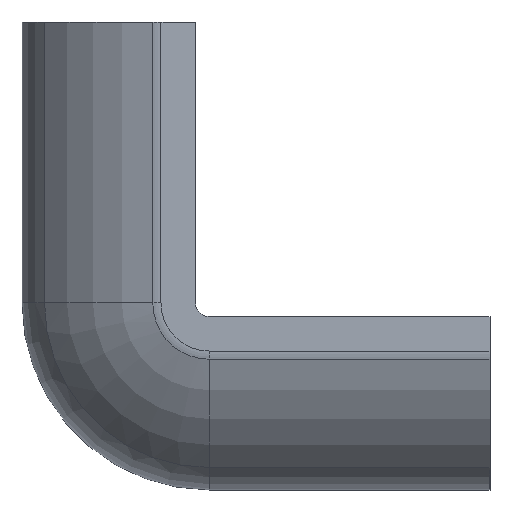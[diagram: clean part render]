
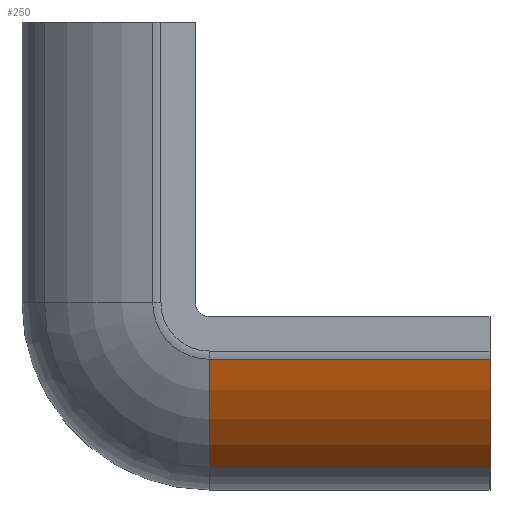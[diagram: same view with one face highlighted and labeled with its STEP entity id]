
A CAD part, left-side view. The second image highlights one B-rep face of the part: STEP entity #250.
In plain terms, the highlighted cylindrical face has radius 20 mm (diameter 40 mm), a partial arc.
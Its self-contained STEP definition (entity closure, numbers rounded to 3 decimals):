
#10 = CARTESIAN_POINT ( 'NONE',  ( -14.894, -28.32, -32.427 ) ) ;
#50 = EDGE_CURVE ( 'NONE', #1229, #1000, #739, .T. ) ;
#89 = CARTESIAN_POINT ( 'NONE',  ( -8.015, -28.32, -42.84 ) ) ;
#91 = DIRECTION ( 'NONE',  ( 0., 1., 0. ) ) ;
#119 = DIRECTION ( 'NONE',  ( 0., 1., 0. ) ) ;
#124 = VERTEX_POINT ( 'NONE', #883 ) ;
#188 = VECTOR ( 'NONE', #877, 1000. ) ;
#207 = CARTESIAN_POINT ( 'NONE',  ( -14.894, -1.32, -32.427 ) ) ;
#250 = ADVANCED_FACE ( 'NONE', ( #1447 ), #1463, .T. ) ;
#268 = EDGE_LOOP ( 'NONE', ( #287, #1659, #1123, #473 ) ) ;
#277 = DIRECTION ( 'NONE',  ( 0., 0., -1. ) ) ;
#287 = ORIENTED_EDGE ( 'NONE', *, *, #50, .T. ) ;
#289 = VECTOR ( 'NONE', #1025, 1000. ) ;
#374 = DIRECTION ( 'NONE',  ( 1., 0., 0. ) ) ;
#450 = VERTEX_POINT ( 'NONE', #502 ) ;
#455 = EDGE_CURVE ( 'NONE', #450, #1229, #1014, .T. ) ;
#473 = ORIENTED_EDGE ( 'NONE', *, *, #455, .T. ) ;
#502 = CARTESIAN_POINT ( 'NONE',  ( -8.015, -1.32, -42.84 ) ) ;
#513 = DIRECTION ( 'NONE',  ( 1., 0., 0. ) ) ;
#739 = CIRCLE ( 'NONE', #1392, 20. ) ;
#775 = CIRCLE ( 'NONE', #1401, 20. ) ;
#795 = CARTESIAN_POINT ( 'NONE',  ( 4.4, -1.32, -27.16 ) ) ;
#877 = DIRECTION ( 'NONE',  ( 0., 1., 0. ) ) ;
#883 = CARTESIAN_POINT ( 'NONE',  ( -14.894, -1.32, -32.427 ) ) ;
#954 = AXIS2_PLACEMENT_3D ( 'NONE', #1571, #1469, #277 ) ;
#1000 = VERTEX_POINT ( 'NONE', #10 ) ;
#1014 = LINE ( 'NONE', #1142, #289 ) ;
#1025 = DIRECTION ( 'NONE',  ( 0., -1., 0. ) ) ;
#1123 = ORIENTED_EDGE ( 'NONE', *, *, #1499, .F. ) ;
#1142 = CARTESIAN_POINT ( 'NONE',  ( -8.015, -1.32, -42.84 ) ) ;
#1229 = VERTEX_POINT ( 'NONE', #89 ) ;
#1392 = AXIS2_PLACEMENT_3D ( 'NONE', #1527, #91, #513 ) ;
#1401 = AXIS2_PLACEMENT_3D ( 'NONE', #795, #119, #374 ) ;
#1447 = FACE_OUTER_BOUND ( 'NONE', #268, .T. ) ;
#1463 = CYLINDRICAL_SURFACE ( 'NONE', #954, 20. ) ;
#1469 = DIRECTION ( 'NONE',  ( 0., -1., 0. ) ) ;
#1499 = EDGE_CURVE ( 'NONE', #450, #124, #775, .T. ) ;
#1523 = LINE ( 'NONE', #207, #188 ) ;
#1527 = CARTESIAN_POINT ( 'NONE',  ( 4.4, -28.32, -27.16 ) ) ;
#1571 = CARTESIAN_POINT ( 'NONE',  ( 4.4, -1.32, -27.16 ) ) ;
#1649 = EDGE_CURVE ( 'NONE', #1000, #124, #1523, .T. ) ;
#1659 = ORIENTED_EDGE ( 'NONE', *, *, #1649, .T. ) ;
